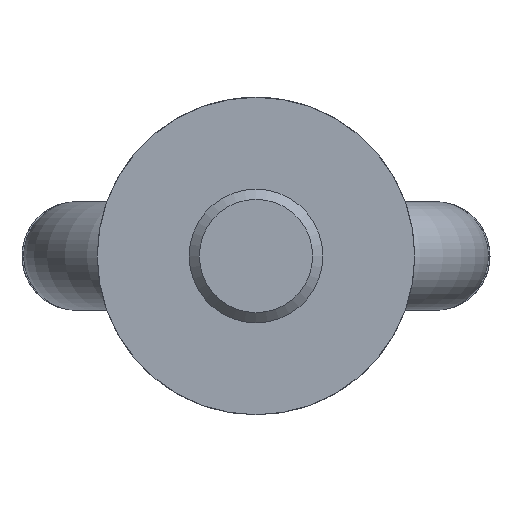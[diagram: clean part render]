
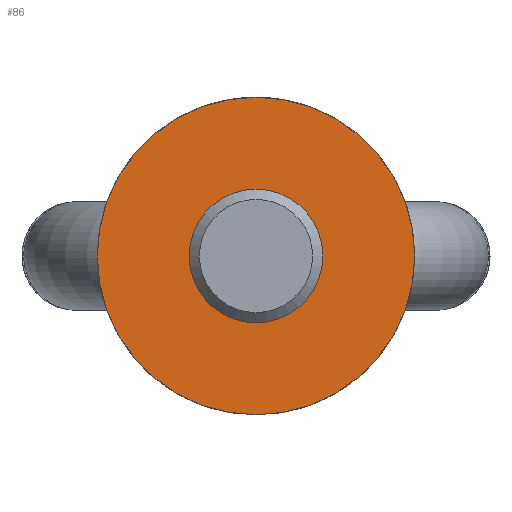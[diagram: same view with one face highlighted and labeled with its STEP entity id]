
A CAD part, front view. The second image highlights one B-rep face of the part: STEP entity #86.
In plain terms, the highlighted planar face has unit normal (0, -1, 0).
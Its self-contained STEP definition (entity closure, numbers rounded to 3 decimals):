
#86 = ADVANCED_FACE( '', ( #132, #133 ), #134, .F. );
#132 = FACE_BOUND( '', #200, .T. );
#133 = FACE_OUTER_BOUND( '', #201, .T. );
#134 = PLANE( '', #202 );
#200 = EDGE_LOOP( '', ( #307 ) );
#201 = EDGE_LOOP( '', ( #308 ) );
#202 = AXIS2_PLACEMENT_3D( '', #309, #310, #311 );
#307 = ORIENTED_EDGE( '', *, *, #427, .T. );
#308 = ORIENTED_EDGE( '', *, *, #441, .T. );
#309 = CARTESIAN_POINT( '', ( 19., 0., 0. ) );
#310 = DIRECTION( '', ( 0., 1., 0. ) );
#311 = DIRECTION( '', ( 0., 0., 1. ) );
#427 = EDGE_CURVE( '', #487, #487, #488, .T. );
#441 = EDGE_CURVE( '', #512, #512, #513, .T. );
#487 = VERTEX_POINT( '', #773 );
#488 = CIRCLE( '', #774, 8. );
#512 = VERTEX_POINT( '', #812 );
#513 = CIRCLE( '', #813, 19. );
#773 = CARTESIAN_POINT( '', ( 0., 0., 8. ) );
#774 = AXIS2_PLACEMENT_3D( '', #1001, #1002, #1003 );
#812 = CARTESIAN_POINT( '', ( 0., 0., -19. ) );
#813 = AXIS2_PLACEMENT_3D( '', #1024, #1025, #1026 );
#1001 = CARTESIAN_POINT( '', ( 0., 0., 0. ) );
#1002 = DIRECTION( '', ( 0., 1., 0. ) );
#1003 = DIRECTION( '', ( 0., 0., 1. ) );
#1024 = CARTESIAN_POINT( '', ( 0., 0., 0. ) );
#1025 = DIRECTION( '', ( 0., -1., 0. ) );
#1026 = DIRECTION( '', ( 0., 0., -1. ) );
